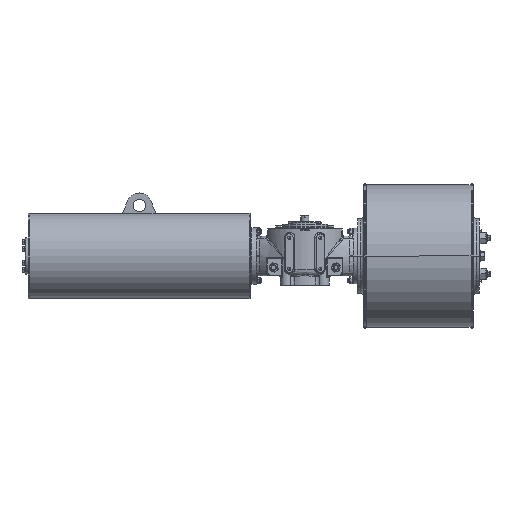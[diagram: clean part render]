
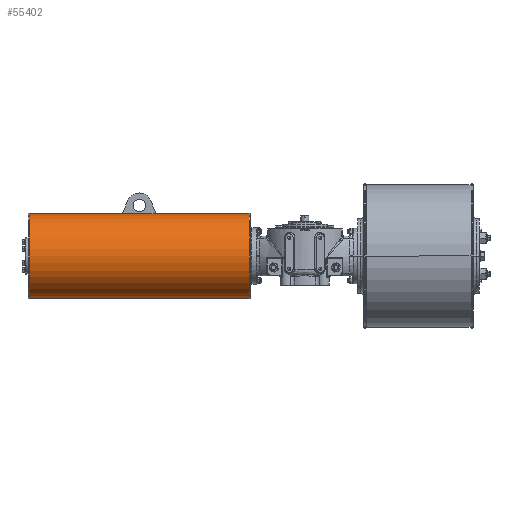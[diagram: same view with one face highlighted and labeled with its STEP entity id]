
A CAD part, front view. The second image highlights one B-rep face of the part: STEP entity #55402.
In plain terms, the highlighted cylindrical face has radius 136.5 mm (diameter 273 mm), a partial arc.
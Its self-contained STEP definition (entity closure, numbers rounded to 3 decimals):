
#428 = EDGE_CURVE ( 'NONE', #49078, #57641, #9608, .T. ) ;
#1596 = LINE ( 'NONE', #40290, #46822 ) ;
#3441 = DIRECTION ( 'NONE',  ( 0., -1., 0. ) ) ;
#3710 = DIRECTION ( 'NONE',  ( 0., 1., 0. ) ) ;
#4339 = CARTESIAN_POINT ( 'NONE',  ( -177.023, -101.204, 2. ) ) ;
#6535 = VECTOR ( 'NONE', #31276, 1000. ) ;
#7140 = EDGE_CURVE ( 'NONE', #58467, #72088, #10338, .T. ) ;
#7620 = CARTESIAN_POINT ( 'NONE',  ( -884.023, 35.296, 2. ) ) ;
#8219 = VERTEX_POINT ( 'NONE', #4339 ) ;
#8590 = ORIENTED_EDGE ( 'NONE', *, *, #428, .F. ) ;
#8754 = ORIENTED_EDGE ( 'NONE', *, *, #38371, .T. ) ;
#9190 = DIRECTION ( 'NONE',  ( -1., 0., 0. ) ) ;
#9608 = LINE ( 'NONE', #49029, #71257 ) ;
#10338 = CIRCLE ( 'NONE', #58177, 136.5 ) ;
#11693 = CARTESIAN_POINT ( 'NONE',  ( -177.023, 35.296, -134.5 ) ) ;
#13007 = CARTESIAN_POINT ( 'NONE',  ( -180.523, 35.296, 138.5 ) ) ;
#14345 = VERTEX_POINT ( 'NONE', #45420 ) ;
#14492 = CARTESIAN_POINT ( 'NONE',  ( -884.023, 35.296, -134.5 ) ) ;
#15387 = CIRCLE ( 'NONE', #56200, 136.5 ) ;
#16978 = DIRECTION ( 'NONE',  ( -1., 0., 0. ) ) ;
#17274 = ORIENTED_EDGE ( 'NONE', *, *, #58517, .T. ) ;
#18464 = DIRECTION ( 'NONE',  ( -1., 0., 0. ) ) ;
#19360 = VERTEX_POINT ( 'NONE', #33118 ) ;
#22508 = FACE_OUTER_BOUND ( 'NONE', #56656, .T. ) ;
#22980 = ORIENTED_EDGE ( 'NONE', *, *, #49939, .T. ) ;
#23140 = DIRECTION ( 'NONE',  ( -1., 0., 0. ) ) ;
#23357 = DIRECTION ( 'NONE',  ( 1., 0., 0. ) ) ;
#23713 = DIRECTION ( 'NONE',  ( 0., 0., 1. ) ) ;
#23958 = AXIS2_PLACEMENT_3D ( 'NONE', #33429, #16978, #66660 ) ;
#27402 = ORIENTED_EDGE ( 'NONE', *, *, #42931, .T. ) ;
#27963 = AXIS2_PLACEMENT_3D ( 'NONE', #45499, #62608, #28670 ) ;
#28311 = EDGE_CURVE ( 'NONE', #72088, #14345, #68482, .T. ) ;
#28670 = DIRECTION ( 'NONE',  ( 0., 0., 1. ) ) ;
#29578 = ORIENTED_EDGE ( 'NONE', *, *, #7140, .T. ) ;
#29793 = AXIS2_PLACEMENT_3D ( 'NONE', #59669, #53455, #3441 ) ;
#31276 = DIRECTION ( 'NONE',  ( 1., 0., 0. ) ) ;
#33118 = CARTESIAN_POINT ( 'NONE',  ( -177.023, 35.296, 138.5 ) ) ;
#33429 = CARTESIAN_POINT ( 'NONE',  ( -180.523, 35.296, 2. ) ) ;
#34900 = AXIS2_PLACEMENT_3D ( 'NONE', #37507, #60124, #38582 ) ;
#35057 = ORIENTED_EDGE ( 'NONE', *, *, #28311, .T. ) ;
#37507 = CARTESIAN_POINT ( 'NONE',  ( -177.023, 35.296, 2. ) ) ;
#38173 = EDGE_CURVE ( 'NONE', #49078, #8219, #60562, .T. ) ;
#38371 = EDGE_CURVE ( 'NONE', #8219, #19360, #64089, .T. ) ;
#38582 = DIRECTION ( 'NONE',  ( 0., 0., 1. ) ) ;
#40290 = CARTESIAN_POINT ( 'NONE',  ( -180.523, 35.296, 138.5 ) ) ;
#41058 = CARTESIAN_POINT ( 'NONE',  ( -584.523, 35.296, 138.5 ) ) ;
#42931 = EDGE_CURVE ( 'NONE', #14345, #57641, #15387, .T. ) ;
#43210 = DIRECTION ( 'NONE',  ( -1., 0., 0. ) ) ;
#44593 = EDGE_CURVE ( 'NONE', #58467, #52977, #64141, .T. ) ;
#44712 = CARTESIAN_POINT ( 'NONE',  ( -584.523, 30.296, 138.408 ) ) ;
#45420 = CARTESIAN_POINT ( 'NONE',  ( -884.023, 35.296, 138.5 ) ) ;
#45499 = CARTESIAN_POINT ( 'NONE',  ( -177.023, 35.296, 2. ) ) ;
#46822 = VECTOR ( 'NONE', #23140, 1000. ) ;
#49029 = CARTESIAN_POINT ( 'NONE',  ( -180.523, 35.296, -134.5 ) ) ;
#49078 = VERTEX_POINT ( 'NONE', #11693 ) ;
#49939 = EDGE_CURVE ( 'NONE', #69150, #52977, #64762, .T. ) ;
#52357 = CARTESIAN_POINT ( 'NONE',  ( -476.523, 35.296, 138.5 ) ) ;
#52977 = VERTEX_POINT ( 'NONE', #60842 ) ;
#53455 = DIRECTION ( 'NONE',  ( 1., 0., 0. ) ) ;
#55402 = ADVANCED_FACE ( 'NONE', ( #22508 ), #67010, .T. ) ;
#55419 = ORIENTED_EDGE ( 'NONE', *, *, #38173, .T. ) ;
#55772 = VECTOR ( 'NONE', #18464, 1000. ) ;
#56200 = AXIS2_PLACEMENT_3D ( 'NONE', #7620, #23357, #23713 ) ;
#56656 = EDGE_LOOP ( 'NONE', ( #8590, #55419, #8754, #17274, #22980, #65090, #29578, #35057, #27402 ) ) ;
#57641 = VERTEX_POINT ( 'NONE', #14492 ) ;
#58177 = AXIS2_PLACEMENT_3D ( 'NONE', #70860, #9190, #3710 ) ;
#58467 = VERTEX_POINT ( 'NONE', #44712 ) ;
#58517 = EDGE_CURVE ( 'NONE', #19360, #69150, #1596, .T. ) ;
#59669 = CARTESIAN_POINT ( 'NONE',  ( -476.523, 35.296, 2. ) ) ;
#60124 = DIRECTION ( 'NONE',  ( -1., 0., 0. ) ) ;
#60562 = CIRCLE ( 'NONE', #34900, 136.5 ) ;
#60842 = CARTESIAN_POINT ( 'NONE',  ( -476.523, 30.296, 138.408 ) ) ;
#62608 = DIRECTION ( 'NONE',  ( -1., 0., 0. ) ) ;
#64089 = CIRCLE ( 'NONE', #27963, 136.5 ) ;
#64141 = LINE ( 'NONE', #65575, #6535 ) ;
#64762 = CIRCLE ( 'NONE', #29793, 136.5 ) ;
#65090 = ORIENTED_EDGE ( 'NONE', *, *, #44593, .F. ) ;
#65575 = CARTESIAN_POINT ( 'NONE',  ( -180.523, 30.296, 138.408 ) ) ;
#66660 = DIRECTION ( 'NONE',  ( 0., 0., 1. ) ) ;
#67010 = CYLINDRICAL_SURFACE ( 'NONE', #23958, 136.5 ) ;
#68482 = LINE ( 'NONE', #13007, #55772 ) ;
#69150 = VERTEX_POINT ( 'NONE', #52357 ) ;
#70860 = CARTESIAN_POINT ( 'NONE',  ( -584.523, 35.296, 2. ) ) ;
#71257 = VECTOR ( 'NONE', #43210, 1000. ) ;
#72088 = VERTEX_POINT ( 'NONE', #41058 ) ;
